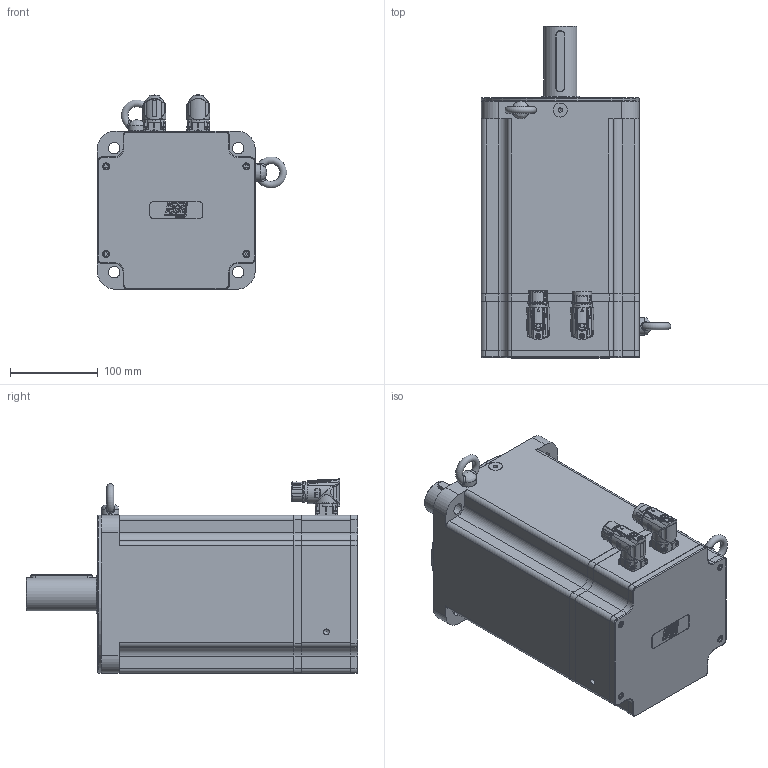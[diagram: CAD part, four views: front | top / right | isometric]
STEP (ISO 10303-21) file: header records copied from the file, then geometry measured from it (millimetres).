
FILE_DESCRIPTION(/* description */ ('Unknown'),/* implementation_level */ '2;1');
FILE_NAME(/* name */ 'TC4-180.7E.X X.X.3.XX.0.X.G2.00.00 Q0B808',/* time_stamp */ '2026-03-10T14:19:38+01:00',/* author */ ('Unknown'),/* organization */ ('Unknown'),/* preprocessor_version */ 'ST-DEVELOPER v19.4',/* originating_system */ 'Solid Edge',/* authorisation */ 'Unknown');
FILE_SCHEMA (('AUTOMOTIVE_DESIGN {1 0 10303 214 3 1 1}'));
Products named in the file (15): Q0B808 7E VUOTO; Calotta TC4-180 V8; 003251040631; 005911000479; 005911000185; 003155002230; 005113001040; 005119001064; Coperchio campana TC4-180; 005911000180; 005321000010; 007117000454; Corpo TC4-180 7E; 007117000456; 003003199967
Assembly tree (32 placements, depth 2):
  Q0B808 7E VUOTO
    Calotta TC4-180 V8
    003251040631
    005911000479  x8
    005911000185  x8
    003155002230
    005113001040
    005119001064
    Coperchio campana TC4-180
    005911000180  x4
    005321000010  x2
    007117000454
    Corpo TC4-180 7E
    007117000456
    003003199967
Bounding box: 215.97 x 378.5 x 221.5 mm (x, y, z)
Volume: 3714328.2 mm3; surface area: 750833.2 mm2
Topology: 34 solids, 34 shells, 2237 faces, 5618 edges, 3603 vertices
Faces by surface type: plane 939, cylinder 519, cone 303, bspline 270, torus 147, sphere 59
Full cylindrical faces by diameter (mm): 0.5 x1, 1 x21, 1.2 x17, 1.4 x4, 2 x4, 2.013 x16, 2.5 x8, 2.8 x4, 3 x12, 3.242 x8, 4 x5, 4.134 x24, 4.2 x8, 4.5 x10, 4.7 x8, 4.917 x2, 5 x8, 5.5 x10, 5.8 x1, 5.9 x2, 6.647 x14, 6.8 x1, 7 x6, 8 x6, 9 x4, 10 x3, 10.106 x2, 15.2 x1, 16 x1, 17.4 x3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
Entity records: 77120 total; most frequent: CARTESIAN_POINT 20184, ORIENTED_EDGE 8898, DIRECTION 8558, EDGE_CURVE 4449, AXIS2_PLACEMENT_3D 3330, VERTEX_POINT 3098, FACE_BOUND 2639, EDGE_LOOP 2608
